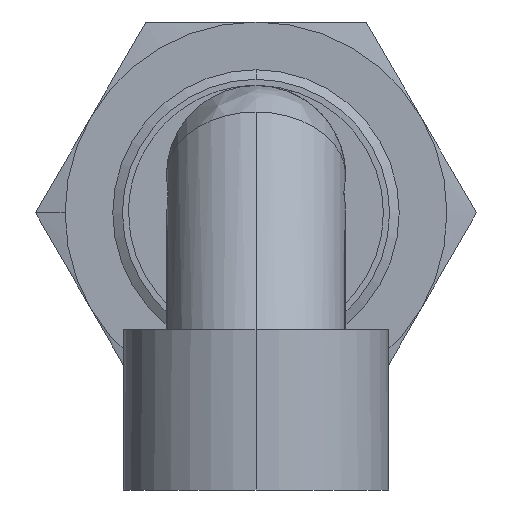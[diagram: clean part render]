
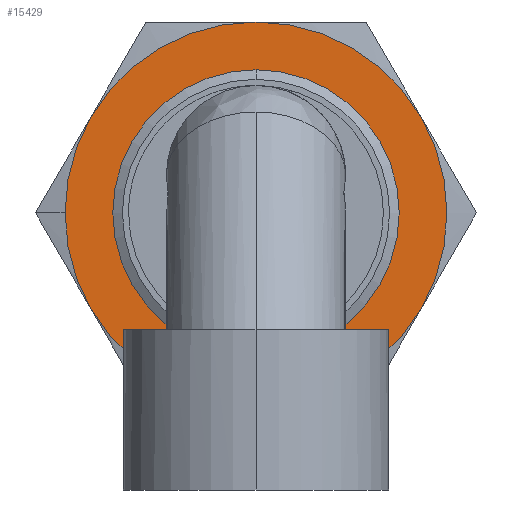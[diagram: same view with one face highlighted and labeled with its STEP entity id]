
A CAD part, left-side view. The second image highlights one B-rep face of the part: STEP entity #15429.
In plain terms, the highlighted planar face has unit normal (-1, 0, 0).
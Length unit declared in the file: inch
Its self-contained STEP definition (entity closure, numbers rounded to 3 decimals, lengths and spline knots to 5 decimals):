
#743 = CIRCLE ( 'NONE', #744, 0.472 ) ;
#744 = AXIS2_PLACEMENT_3D ( 'NONE', #745, #746, #747 ) ;
#745 = CARTESIAN_POINT ( 'NONE',  ( 0.98432, 0., 0. ) ) ;
#746 = DIRECTION ( 'NONE',  ( -1., 0., 0. ) ) ;
#747 = DIRECTION ( 'NONE',  ( 0., 1., 0. ) ) ;
#841 = EDGE_CURVE ( 'NONE', #947, #1210, #14571, .T. ) ;
#947 = VERTEX_POINT ( 'NONE', #14629 ) ;
#1210 = VERTEX_POINT ( 'NONE', #14826 ) ;
#1411 = CARTESIAN_POINT ( 'NONE',  ( 0.98432, 0.40876, -0.236 ) ) ;
#1470 = EDGE_CURVE ( 'NONE', #1210, #947, #15040, .T. ) ;
#1503 = CARTESIAN_POINT ( 'NONE',  ( 0.98432, 0.472, 0. ) ) ;
#1646 = CIRCLE ( 'NONE', #1647, 0.472 ) ;
#1647 = AXIS2_PLACEMENT_3D ( 'NONE', #1648, #1649, #1650 ) ;
#1648 = CARTESIAN_POINT ( 'NONE',  ( 0.98432, 0., 0. ) ) ;
#1649 = DIRECTION ( 'NONE',  ( -1., 0., 0. ) ) ;
#1650 = DIRECTION ( 'NONE',  ( 0., 1., 0. ) ) ;
#2834 = CIRCLE ( 'NONE', #2835, 0.472 ) ;
#2835 = AXIS2_PLACEMENT_3D ( 'NONE', #2836, #2837, #2838 ) ;
#2836 = CARTESIAN_POINT ( 'NONE',  ( 0.98432, 0., 0. ) ) ;
#2837 = DIRECTION ( 'NONE',  ( -1., 0., 0. ) ) ;
#2838 = DIRECTION ( 'NONE',  ( 0., 1., 0. ) ) ;
#3099 = CARTESIAN_POINT ( 'NONE',  ( 0.98432, -0.40876, -0.236 ) ) ;
#3541 = CIRCLE ( 'NONE', #3542, 0.472 ) ;
#3542 = AXIS2_PLACEMENT_3D ( 'NONE', #3543, #3544, #3545 ) ;
#3543 = CARTESIAN_POINT ( 'NONE',  ( 0.98432, 0., 0. ) ) ;
#3544 = DIRECTION ( 'NONE',  ( -1., 0., 0. ) ) ;
#3545 = DIRECTION ( 'NONE',  ( 0., 0., -1. ) ) ;
#3915 = CARTESIAN_POINT ( 'NONE',  ( 0.98432, 0., 0.472 ) ) ;
#3973 = ORIENTED_EDGE ( 'NONE', *, *, #9606, .T. ) ;
#4560 = ORIENTED_EDGE ( 'NONE', *, *, #12427, .T. ) ;
#4812 = EDGE_CURVE ( 'NONE', #12245, #6072, #743, .T. ) ;
#5360 = CARTESIAN_POINT ( 'NONE',  ( 0.98432, 0.40876, 0.236 ) ) ;
#5373 = ORIENTED_EDGE ( 'NONE', *, *, #6326, .T. ) ;
#5701 = CIRCLE ( 'NONE', #5702, 0.472 ) ;
#5702 = AXIS2_PLACEMENT_3D ( 'NONE', #5703, #5705, #5706 ) ;
#5703 = CARTESIAN_POINT ( 'NONE',  ( 0.98432, 0., 0. ) ) ;
#5705 = DIRECTION ( 'NONE',  ( -1., 0., 0. ) ) ;
#5706 = DIRECTION ( 'NONE',  ( 0., 1., 0. ) ) ;
#5815 = VERTEX_POINT ( 'NONE', #1411 ) ;
#5972 = ORIENTED_EDGE ( 'NONE', *, *, #4812, .T. ) ;
#6072 = VERTEX_POINT ( 'NONE', #1503 ) ;
#6326 = EDGE_CURVE ( 'NONE', #6072, #5815, #1646, .T. ) ;
#6403 = CIRCLE ( 'NONE', #6404, 0.472 ) ;
#6404 = AXIS2_PLACEMENT_3D ( 'NONE', #6405, #6406, #6407 ) ;
#6405 = CARTESIAN_POINT ( 'NONE',  ( 0.98432, 0., 0. ) ) ;
#6406 = DIRECTION ( 'NONE',  ( -1., 0., 0. ) ) ;
#6407 = DIRECTION ( 'NONE',  ( 0., 0., -1. ) ) ;
#6531 = CARTESIAN_POINT ( 'NONE',  ( 0.98432, 0., -0.472 ) ) ;
#6561 = ORIENTED_EDGE ( 'NONE', *, *, #8352, .T. ) ;
#7162 = ORIENTED_EDGE ( 'NONE', *, *, #12736, .T. ) ;
#7757 = ORIENTED_EDGE ( 'NONE', *, *, #13469, .T. ) ;
#8161 = CIRCLE ( 'NONE', #8162, 0.472 ) ;
#8162 = AXIS2_PLACEMENT_3D ( 'NONE', #8163, #8164, #8165 ) ;
#8163 = CARTESIAN_POINT ( 'NONE',  ( 0.98432, 0., 0. ) ) ;
#8164 = DIRECTION ( 'NONE',  ( -1., 0., 0. ) ) ;
#8165 = DIRECTION ( 'NONE',  ( 0., 0., -1. ) ) ;
#8352 = EDGE_CURVE ( 'NONE', #10238, #12245, #2834, .T. ) ;
#8353 = EDGE_LOOP ( 'NONE', ( #7757, #7162, #6561, #5972, #5373, #4560, #3973 ) ) ;
#8421 = CARTESIAN_POINT ( 'NONE',  ( 0.98432, -0.40876, 0.236 ) ) ;
#8629 = ORIENTED_EDGE ( 'NONE', *, *, #1470, .T. ) ;
#8741 = VERTEX_POINT ( 'NONE', #3099 ) ;
#9606 = EDGE_CURVE ( 'NONE', #12797, #8741, #3541, .T. ) ;
#10238 = VERTEX_POINT ( 'NONE', #3915 ) ;
#10249 = FACE_BOUND ( 'NONE', #15158, .T. ) ;
#10250 = FACE_OUTER_BOUND ( 'NONE', #8353, .T. ) ;
#10251 = PLANE ( 'NONE',  #10252 ) ;
#10252 = AXIS2_PLACEMENT_3D ( 'NONE', #10253, #10254, #10255 ) ;
#10253 = CARTESIAN_POINT ( 'NONE',  ( 0.98432, 0., 0. ) ) ;
#10254 = DIRECTION ( 'NONE',  ( -1., 0., 0. ) ) ;
#10255 = DIRECTION ( 'NONE',  ( 0., -1., 0. ) ) ;
#12245 = VERTEX_POINT ( 'NONE', #5360 ) ;
#12427 = EDGE_CURVE ( 'NONE', #5815, #12797, #5701, .T. ) ;
#12736 = EDGE_CURVE ( 'NONE', #13554, #10238, #6403, .T. ) ;
#12797 = VERTEX_POINT ( 'NONE', #6531 ) ;
#13469 = EDGE_CURVE ( 'NONE', #8741, #13554, #8161, .T. ) ;
#13554 = VERTEX_POINT ( 'NONE', #8421 ) ;
#14560 = ORIENTED_EDGE ( 'NONE', *, *, #841, .T. ) ;
#14571 = CIRCLE ( 'NONE', #14572, 0.3305 ) ;
#14572 = AXIS2_PLACEMENT_3D ( 'NONE', #14573, #14574, #14575 ) ;
#14573 = CARTESIAN_POINT ( 'NONE',  ( 0.98432, 0., 0. ) ) ;
#14574 = DIRECTION ( 'NONE',  ( 1., 0., 0. ) ) ;
#14575 = DIRECTION ( 'NONE',  ( 0., 0., -1. ) ) ;
#14629 = CARTESIAN_POINT ( 'NONE',  ( 0.98432, 0., -0.3305 ) ) ;
#14826 = CARTESIAN_POINT ( 'NONE',  ( 0.98432, 0., 0.3305 ) ) ;
#15040 = CIRCLE ( 'NONE', #15041, 0.3305 ) ;
#15041 = AXIS2_PLACEMENT_3D ( 'NONE', #15042, #15043, #15044 ) ;
#15042 = CARTESIAN_POINT ( 'NONE',  ( 0.98432, 0., 0. ) ) ;
#15043 = DIRECTION ( 'NONE',  ( 1., 0., 0. ) ) ;
#15044 = DIRECTION ( 'NONE',  ( 0., 0., -1. ) ) ;
#15158 = EDGE_LOOP ( 'NONE', ( #14560, #8629 ) ) ;
#15429 = ADVANCED_FACE ( 'NONE', ( #10249, #10250 ), #10251, .T. ) ;
